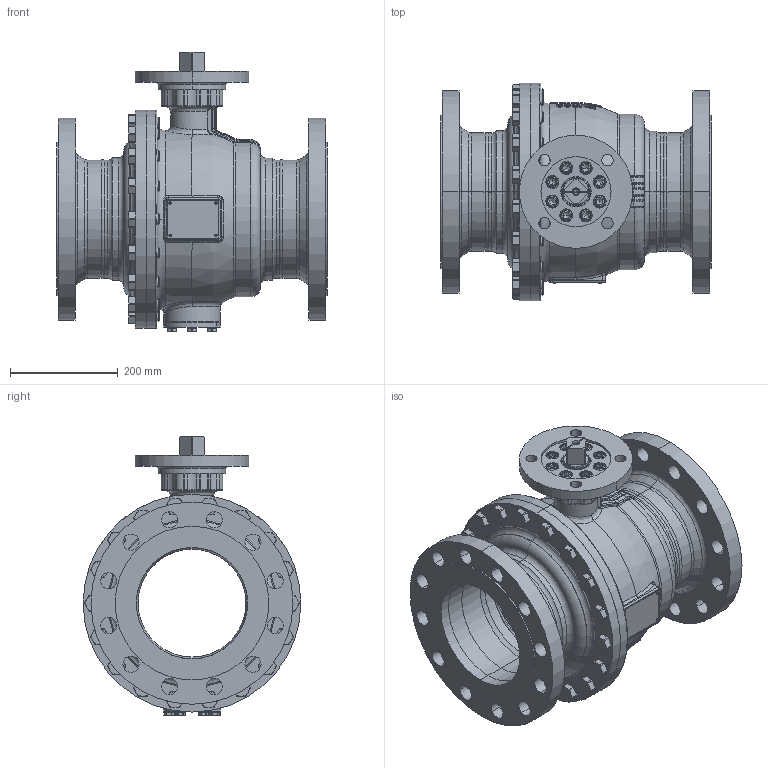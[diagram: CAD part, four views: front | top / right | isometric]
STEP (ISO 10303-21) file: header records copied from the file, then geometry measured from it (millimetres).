
FILE_DESCRIPTION((''),'2;1');
FILE_NAME('KHI-F_200_PN040-F16-4_SW0001','2026-02-05T13:02:33',('fischerkl'),('KLINGER'),'CREO PARAMETRIC BY PTC INC, 2023014','CREO PARAMETRIC BY PTC INC, 2023014','');
FILE_SCHEMA(('CONFIG_CONTROL_DESIGN'));
Products named in the file (1): KHI-F_200_PN040-F16-4_SW0001
Bounding box: 502 x 404 x 519.2 mm (x, y, z)
Volume: 14835116.9 mm3; surface area: 2438985.5 mm2
Topology: 1 solids, 4 shells, 2936 faces, 7322 edges, 4537 vertices
Faces by surface type: plane 1415, cylinder 714, cone 364, torus 305, bspline 108, sphere 30
Entity records: 120721 total; most frequent: CARTESIAN_POINT 51534, ORIENTED_EDGE 14592, DIRECTION 14353, EDGE_CURVE 7296, AXIS2_PLACEMENT_3D 5542, VERTEX_POINT 4537, VECTOR 3269, LINE 3269
